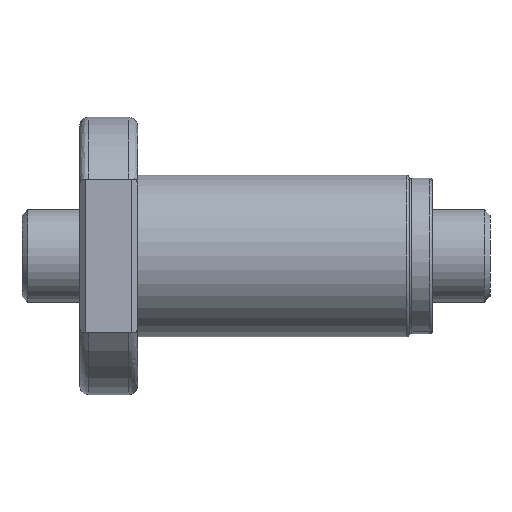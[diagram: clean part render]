
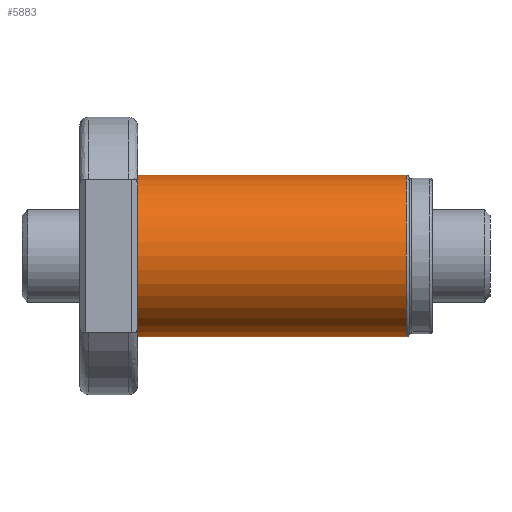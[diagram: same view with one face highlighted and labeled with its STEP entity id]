
A CAD part, front view. The second image highlights one B-rep face of the part: STEP entity #5883.
In plain terms, the highlighted cylindrical face has radius 14 mm (diameter 28 mm), a partial arc.
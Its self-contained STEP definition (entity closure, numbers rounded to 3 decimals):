
#358 = ORIENTED_EDGE ( 'NONE', *, *, #1538, .T. ) ;
#784 = LINE ( 'NONE', #943, #3786 ) ;
#917 = DIRECTION ( 'NONE',  ( -1., 0., 0. ) ) ;
#943 = CARTESIAN_POINT ( 'NONE',  ( 0., 0., -14. ) ) ;
#1035 = EDGE_LOOP ( 'NONE', ( #4660, #6697, #358, #7113 ) ) ;
#1218 = DIRECTION ( 'NONE',  ( 0., 0., 1. ) ) ;
#1263 = DIRECTION ( 'NONE',  ( -1., 0., 0. ) ) ;
#1538 = EDGE_CURVE ( 'NONE', #5683, #3090, #3012, .T. ) ;
#1611 = DIRECTION ( 'NONE',  ( -1., 0., 0. ) ) ;
#1700 = CARTESIAN_POINT ( 'NONE',  ( 0., 0., 14. ) ) ;
#1924 = VECTOR ( 'NONE', #3420, 1000. ) ;
#2006 = CIRCLE ( 'NONE', #3887, 14. ) ;
#2008 = EDGE_CURVE ( 'NONE', #3090, #6139, #2006, .T. ) ;
#3012 = LINE ( 'NONE', #1700, #1924 ) ;
#3090 = VERTEX_POINT ( 'NONE', #6160 ) ;
#3205 = AXIS2_PLACEMENT_3D ( 'NONE', #7445, #1611, #6830 ) ;
#3420 = DIRECTION ( 'NONE',  ( -1., 0., 0. ) ) ;
#3786 = VECTOR ( 'NONE', #917, 1000. ) ;
#3876 = DIRECTION ( 'NONE',  ( 0., 0., 1. ) ) ;
#3887 = AXIS2_PLACEMENT_3D ( 'NONE', #5194, #6959, #3876 ) ;
#4035 = CARTESIAN_POINT ( 'NONE',  ( 56.5, 0., -14. ) ) ;
#4660 = ORIENTED_EDGE ( 'NONE', *, *, #7163, .F. ) ;
#4801 = CIRCLE ( 'NONE', #7155, 14. ) ;
#4825 = CARTESIAN_POINT ( 'NONE',  ( 56.5, 0., 14. ) ) ;
#5194 = CARTESIAN_POINT ( 'NONE',  ( 10., 0., 0. ) ) ;
#5647 = CYLINDRICAL_SURFACE ( 'NONE', #3205, 14. ) ;
#5683 = VERTEX_POINT ( 'NONE', #4825 ) ;
#5883 = ADVANCED_FACE ( 'NONE', ( #7465 ), #5647, .T. ) ;
#6139 = VERTEX_POINT ( 'NONE', #6975 ) ;
#6160 = CARTESIAN_POINT ( 'NONE',  ( 10., 0., 14. ) ) ;
#6647 = VERTEX_POINT ( 'NONE', #4035 ) ;
#6697 = ORIENTED_EDGE ( 'NONE', *, *, #6910, .T. ) ;
#6830 = DIRECTION ( 'NONE',  ( 0., 0., 1. ) ) ;
#6910 = EDGE_CURVE ( 'NONE', #6647, #5683, #4801, .T. ) ;
#6959 = DIRECTION ( 'NONE',  ( 1., 0., 0. ) ) ;
#6975 = CARTESIAN_POINT ( 'NONE',  ( 10., 0., -14. ) ) ;
#7066 = CARTESIAN_POINT ( 'NONE',  ( 56.5, 0., 0. ) ) ;
#7113 = ORIENTED_EDGE ( 'NONE', *, *, #2008, .T. ) ;
#7155 = AXIS2_PLACEMENT_3D ( 'NONE', #7066, #1263, #1218 ) ;
#7163 = EDGE_CURVE ( 'NONE', #6647, #6139, #784, .T. ) ;
#7445 = CARTESIAN_POINT ( 'NONE',  ( 0., 0., 0. ) ) ;
#7465 = FACE_OUTER_BOUND ( 'NONE', #1035, .T. ) ;
